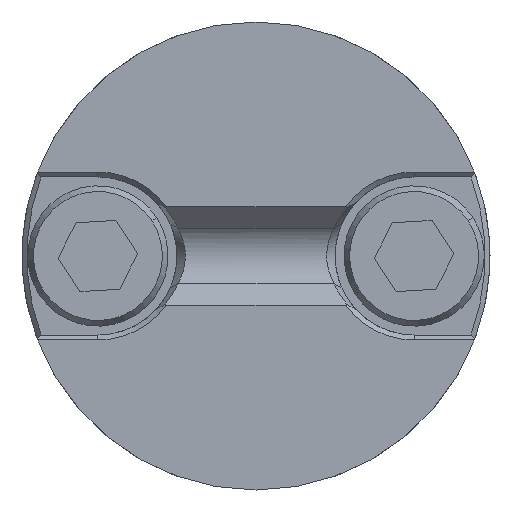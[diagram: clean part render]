
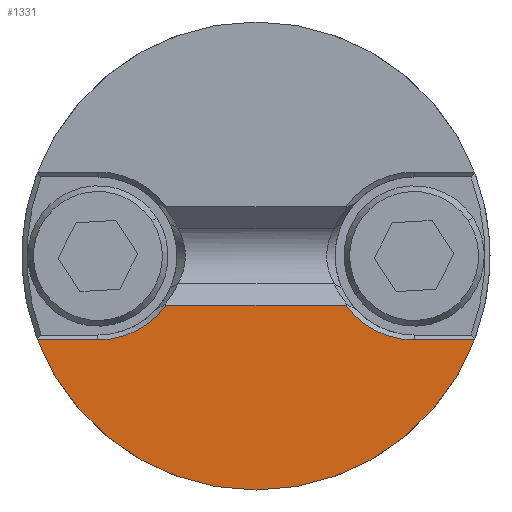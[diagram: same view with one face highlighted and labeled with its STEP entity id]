
A CAD part, front view. The second image highlights one B-rep face of the part: STEP entity #1331.
In plain terms, the highlighted planar face has unit normal (0, -1, 0).
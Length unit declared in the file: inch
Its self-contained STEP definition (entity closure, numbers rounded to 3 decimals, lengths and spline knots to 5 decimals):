
#439 = CARTESIAN_POINT ( 'NONE',  ( -0.14242, 0., -0.07789 ) ) ;
#452 = EDGE_CURVE ( 'NONE', #1799, #1752, #599, .T. ) ;
#454 = EDGE_CURVE ( 'NONE', #1793, #1752, #635, .T. ) ;
#455 = EDGE_CURVE ( 'NONE', #1811, #1918, #754, .T. ) ;
#457 = EDGE_CURVE ( 'NONE', #1802, #1811, #746, .T. ) ;
#458 = EDGE_CURVE ( 'NONE', #1801, #1802, #630, .T. ) ;
#459 = EDGE_CURVE ( 'NONE', #1918, #1799, #780, .T. ) ;
#599 = LINE ( 'NONE', #1869, #618 ) ;
#618 = VECTOR ( 'NONE', #1567, 39.37008 ) ;
#630 = LINE ( 'NONE', #1599, #712 ) ;
#635 = CIRCLE ( 'NONE', #1233, 0.37 ) ;
#690 = FACE_OUTER_BOUND ( 'NONE', #2211, .T. ) ;
#712 = VECTOR ( 'NONE', #1519, 39.37008 ) ;
#722 = VECTOR ( 'NONE', #1586, 39.37008 ) ;
#746 = CIRCLE ( 'NONE', #1237, 0.13281 ) ;
#754 = LINE ( 'NONE', #1576, #722 ) ;
#780 = CIRCLE ( 'NONE', #1238, 0.13281 ) ;
#811 = CIRCLE ( 'NONE', #1245, 0.37 ) ;
#1017 = EDGE_CURVE ( 'NONE', #1801, #1793, #811, .T. ) ;
#1068 = AXIS2_PLACEMENT_3D ( 'NONE', #1672, #1664, #1663 ) ;
#1151 = CARTESIAN_POINT ( 'NONE',  ( -0.34534, 0., -0.13281 ) ) ;
#1233 = AXIS2_PLACEMENT_3D ( 'NONE', #1566, #1608, #1607 ) ;
#1237 = AXIS2_PLACEMENT_3D ( 'NONE', #1602, #1582, #1585 ) ;
#1238 = AXIS2_PLACEMENT_3D ( 'NONE', #1580, #1516, #1551 ) ;
#1245 = AXIS2_PLACEMENT_3D ( 'NONE', #1558, #1647, #1541 ) ;
#1331 = ADVANCED_FACE ( 'NONE', ( #690 ), #1667, .F. ) ;
#1516 = DIRECTION ( 'NONE',  ( 0., 1., 0. ) ) ;
#1519 = DIRECTION ( 'NONE',  ( -1., 0., 0. ) ) ;
#1541 = DIRECTION ( 'NONE',  ( 0., 0., 1. ) ) ;
#1551 = DIRECTION ( 'NONE',  ( 0., 0., 1. ) ) ;
#1558 = CARTESIAN_POINT ( 'NONE',  ( 0., 0., 0. ) ) ;
#1566 = CARTESIAN_POINT ( 'NONE',  ( 0., 0., 0. ) ) ;
#1567 = DIRECTION ( 'NONE',  ( -1., 0., 0. ) ) ;
#1576 = CARTESIAN_POINT ( 'NONE',  ( 0., 0., -0.07789 ) ) ;
#1580 = CARTESIAN_POINT ( 'NONE',  ( -0.25, 0., 0. ) ) ;
#1582 = DIRECTION ( 'NONE',  ( 0., 1., 0. ) ) ;
#1585 = DIRECTION ( 'NONE',  ( 0., 0., 1. ) ) ;
#1586 = DIRECTION ( 'NONE',  ( -1., 0., 0. ) ) ;
#1599 = CARTESIAN_POINT ( 'NONE',  ( 0., 0., -0.13281 ) ) ;
#1602 = CARTESIAN_POINT ( 'NONE',  ( 0.25, 0., 0. ) ) ;
#1607 = DIRECTION ( 'NONE',  ( 0., 0., 1. ) ) ;
#1608 = DIRECTION ( 'NONE',  ( 0., 1., 0. ) ) ;
#1647 = DIRECTION ( 'NONE',  ( 0., 1., 0. ) ) ;
#1663 = DIRECTION ( 'NONE',  ( 0., 0., 1. ) ) ;
#1664 = DIRECTION ( 'NONE',  ( 0., 1., 0. ) ) ;
#1667 = PLANE ( 'NONE',  #1068 ) ;
#1672 = CARTESIAN_POINT ( 'NONE',  ( 0., 0., 0. ) ) ;
#1676 = CARTESIAN_POINT ( 'NONE',  ( 0.14242, 0., -0.07789 ) ) ;
#1679 = CARTESIAN_POINT ( 'NONE',  ( 0.25, 0., -0.13281 ) ) ;
#1681 = CARTESIAN_POINT ( 'NONE',  ( 0.34534, 0., -0.13281 ) ) ;
#1705 = CARTESIAN_POINT ( 'NONE',  ( 0., 0., -0.37 ) ) ;
#1723 = CARTESIAN_POINT ( 'NONE',  ( -0.25, 0., -0.13281 ) ) ;
#1752 = VERTEX_POINT ( 'NONE', #1151 ) ;
#1793 = VERTEX_POINT ( 'NONE', #1705 ) ;
#1799 = VERTEX_POINT ( 'NONE', #1723 ) ;
#1801 = VERTEX_POINT ( 'NONE', #1681 ) ;
#1802 = VERTEX_POINT ( 'NONE', #1679 ) ;
#1811 = VERTEX_POINT ( 'NONE', #1676 ) ;
#1869 = CARTESIAN_POINT ( 'NONE',  ( 0., 0., -0.13281 ) ) ;
#1918 = VERTEX_POINT ( 'NONE', #439 ) ;
#1963 = ORIENTED_EDGE ( 'NONE', *, *, #457, .T. ) ;
#2079 = ORIENTED_EDGE ( 'NONE', *, *, #454, .F. ) ;
#2107 = ORIENTED_EDGE ( 'NONE', *, *, #1017, .F. ) ;
#2119 = ORIENTED_EDGE ( 'NONE', *, *, #452, .T. ) ;
#2156 = ORIENTED_EDGE ( 'NONE', *, *, #459, .T. ) ;
#2211 = EDGE_LOOP ( 'NONE', ( #2243, #1963, #2232, #2156, #2119, #2079, #2107 ) ) ;
#2232 = ORIENTED_EDGE ( 'NONE', *, *, #455, .T. ) ;
#2243 = ORIENTED_EDGE ( 'NONE', *, *, #458, .T. ) ;
